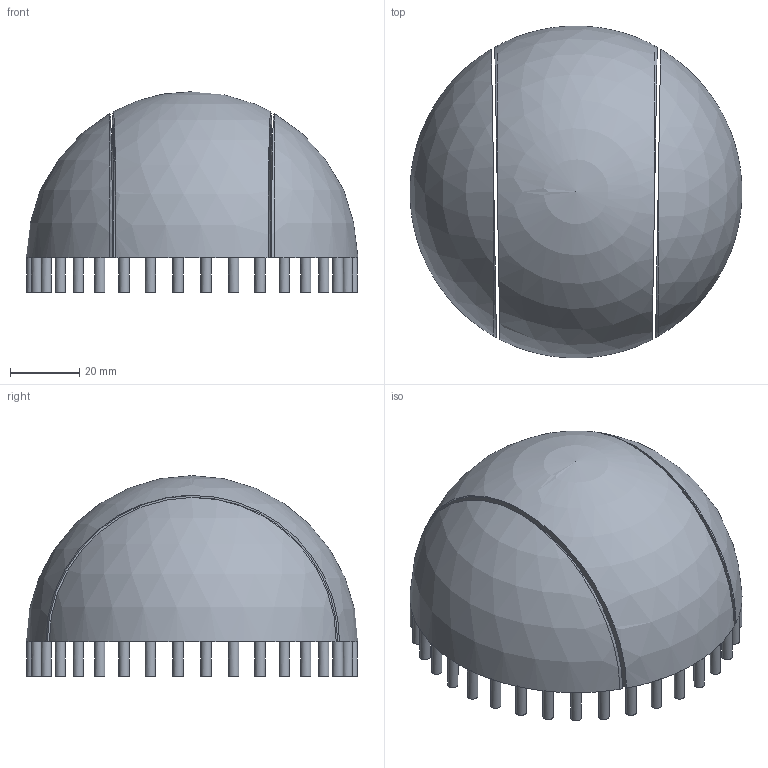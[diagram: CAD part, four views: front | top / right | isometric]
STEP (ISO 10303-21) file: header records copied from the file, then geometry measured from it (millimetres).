
FILE_DESCRIPTION(('Open CASCADE Model'),'2;1');
FILE_NAME('Open CASCADE Shape Model','2026-11-20T06:43:32',('Author'),( 'Open CASCADE'),'Open CASCADE STEP processor 7.8','Open CASCADE 7.8' ,'Unknown');
FILE_SCHEMA(('AUTOMOTIVE_DESIGN { 1 0 10303 214 1 1 1 1 }'));
Length unit declared in the file: millimetre
Products named in the file (4): C02_partition_yaw_minus1_water; Water_Xminus; Water_Center; Water_Xplus
Assembly tree (3 placements, depth 2):
  C02_partition_yaw_minus1_water
    Water_Xminus
    Water_Center
    Water_Xplus
Bounding box: 95.76 x 95.76 x 57.9 mm (x, y, z)
Volume: 42266.6 mm3; surface area: 32503 mm2
Topology: 3 solids, 3 shells, 130 faces, 306 edges, 180 vertices
Faces by surface type: plane 80, cylinder 36, sphere 14
Full cylindrical faces by diameter (mm): 3 x36
Entity records: 10608 total; most frequent: CARTESIAN_POINT 4862, DIRECTION 1134, ORIENTED_EDGE 608, PCURVE 608, DEFINITIONAL_REPRESENTATION 608, AXIS2_PLACEMENT_3D 394, LINE 328, VECTOR 328
